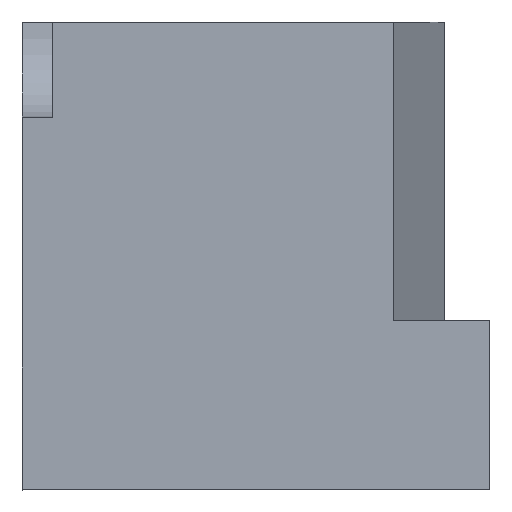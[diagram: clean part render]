
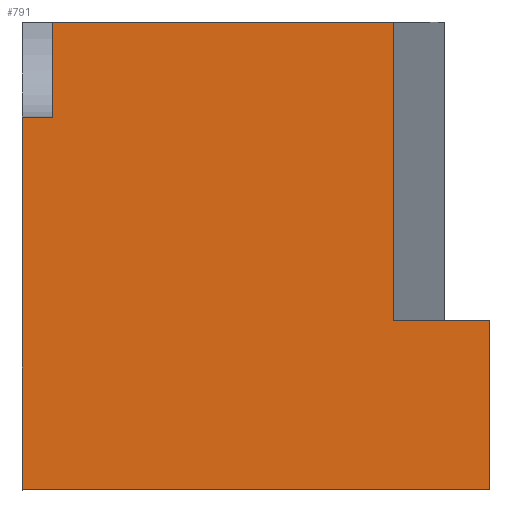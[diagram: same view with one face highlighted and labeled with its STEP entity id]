
A CAD part, top view. The second image highlights one B-rep face of the part: STEP entity #791.
In plain terms, the highlighted planar face has unit normal (0, 0, 1).
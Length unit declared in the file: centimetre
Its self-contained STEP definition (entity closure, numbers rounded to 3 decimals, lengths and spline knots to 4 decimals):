
#10 = ORIENTED_EDGE ( 'NONE', *, *, #664, .F. ) ;
#26 = CARTESIAN_POINT ( 'NONE',  ( 64.294, 795.8398, 1000. ) ) ;
#43 = CARTESIAN_POINT ( 'NONE',  ( 0., 0., 1000. ) ) ;
#56 = VECTOR ( 'NONE', #877, 100. ) ;
#68 = LINE ( 'NONE', #216, #631 ) ;
#115 = DIRECTION ( 'NONE',  ( 0., -1., 0. ) ) ;
#118 = LINE ( 'NONE', #879, #163 ) ;
#123 = CARTESIAN_POINT ( 'NONE',  ( 1000., 361.9751, 1000. ) ) ;
#131 = DIRECTION ( 'NONE',  ( 0., 1., 0. ) ) ;
#132 = ORIENTED_EDGE ( 'NONE', *, *, #359, .T. ) ;
#133 = EDGE_CURVE ( 'NONE', #641, #836, #675, .T. ) ;
#150 = CARTESIAN_POINT ( 'NONE',  ( 64.294, 795.8398, 1000. ) ) ;
#156 = ORIENTED_EDGE ( 'NONE', *, *, #182, .T. ) ;
#162 = CARTESIAN_POINT ( 'NONE',  ( 1000., 0., 1000. ) ) ;
#163 = VECTOR ( 'NONE', #391, 100. ) ;
#174 = ORIENTED_EDGE ( 'NONE', *, *, #672, .F. ) ;
#182 = EDGE_CURVE ( 'NONE', #351, #872, #318, .T. ) ;
#197 = CARTESIAN_POINT ( 'NONE',  ( 64.294, 1000., 1000. ) ) ;
#198 = CARTESIAN_POINT ( 'NONE',  ( 1000., 1000., 1000. ) ) ;
#216 = CARTESIAN_POINT ( 'NONE',  ( 0., 1000., 1000. ) ) ;
#238 = PLANE ( 'NONE',  #865 ) ;
#256 = ORIENTED_EDGE ( 'NONE', *, *, #133, .T. ) ;
#265 = LINE ( 'NONE', #523, #515 ) ;
#273 = VECTOR ( 'NONE', #115, 100. ) ;
#278 = CARTESIAN_POINT ( 'NONE',  ( 1000., 361.9751, 1000. ) ) ;
#285 = VECTOR ( 'NONE', #494, 100. ) ;
#305 = ORIENTED_EDGE ( 'NONE', *, *, #561, .T. ) ;
#318 = LINE ( 'NONE', #800, #398 ) ;
#319 = DIRECTION ( 'NONE',  ( 1., 0., 0. ) ) ;
#351 = VERTEX_POINT ( 'NONE', #874 ) ;
#357 = ORIENTED_EDGE ( 'NONE', *, *, #387, .T. ) ;
#359 = EDGE_CURVE ( 'NONE', #872, #701, #528, .T. ) ;
#374 = EDGE_LOOP ( 'NONE', ( #10, #305, #868, #256, #174, #357, #156, #132 ) ) ;
#387 = EDGE_CURVE ( 'NONE', #653, #351, #265, .T. ) ;
#391 = DIRECTION ( 'NONE',  ( 1., 0., 0. ) ) ;
#395 = CARTESIAN_POINT ( 'NONE',  ( 64.294, 0., 1000. ) ) ;
#398 = VECTOR ( 'NONE', #444, 100. ) ;
#424 = CARTESIAN_POINT ( 'NONE',  ( 0., 0., 1000. ) ) ;
#428 = EDGE_CURVE ( 'NONE', #703, #641, #118, .T. ) ;
#444 = DIRECTION ( 'NONE',  ( -1., 0., 0. ) ) ;
#494 = DIRECTION ( 'NONE',  ( 1., 0., 0. ) ) ;
#515 = VECTOR ( 'NONE', #131, 100. ) ;
#523 = CARTESIAN_POINT ( 'NONE',  ( 794.1463, 361.9751, 1000. ) ) ;
#528 = LINE ( 'NONE', #395, #273 ) ;
#552 = CARTESIAN_POINT ( 'NONE',  ( 794.1463, 361.9751, 1000. ) ) ;
#561 = EDGE_CURVE ( 'NONE', #579, #703, #68, .T. ) ;
#579 = VERTEX_POINT ( 'NONE', #693 ) ;
#628 = LINE ( 'NONE', #278, #285 ) ;
#631 = VECTOR ( 'NONE', #760, 100. ) ;
#641 = VERTEX_POINT ( 'NONE', #162 ) ;
#653 = VERTEX_POINT ( 'NONE', #552 ) ;
#664 = EDGE_CURVE ( 'NONE', #579, #701, #769, .T. ) ;
#672 = EDGE_CURVE ( 'NONE', #653, #836, #628, .T. ) ;
#675 = LINE ( 'NONE', #198, #56 ) ;
#693 = CARTESIAN_POINT ( 'NONE',  ( 0., 795.8398, 1000. ) ) ;
#701 = VERTEX_POINT ( 'NONE', #26 ) ;
#703 = VERTEX_POINT ( 'NONE', #424 ) ;
#708 = DIRECTION ( 'NONE',  ( 1., 0., 0. ) ) ;
#733 = DIRECTION ( 'NONE',  ( 0., 0., 1. ) ) ;
#760 = DIRECTION ( 'NONE',  ( 0., -1., 0. ) ) ;
#769 = LINE ( 'NONE', #150, #796 ) ;
#776 = FACE_OUTER_BOUND ( 'NONE', #374, .T. ) ;
#791 = ADVANCED_FACE ( 'NONE', ( #776 ), #238, .T. ) ;
#796 = VECTOR ( 'NONE', #708, 100. ) ;
#800 = CARTESIAN_POINT ( 'NONE',  ( 0., 1000., 1000. ) ) ;
#836 = VERTEX_POINT ( 'NONE', #123 ) ;
#865 = AXIS2_PLACEMENT_3D ( 'NONE', #43, #733, #319 ) ;
#868 = ORIENTED_EDGE ( 'NONE', *, *, #428, .T. ) ;
#872 = VERTEX_POINT ( 'NONE', #197 ) ;
#874 = CARTESIAN_POINT ( 'NONE',  ( 794.1463, 1000., 1000. ) ) ;
#877 = DIRECTION ( 'NONE',  ( 0., 1., 0. ) ) ;
#879 = CARTESIAN_POINT ( 'NONE',  ( 0., 0., 1000. ) ) ;
